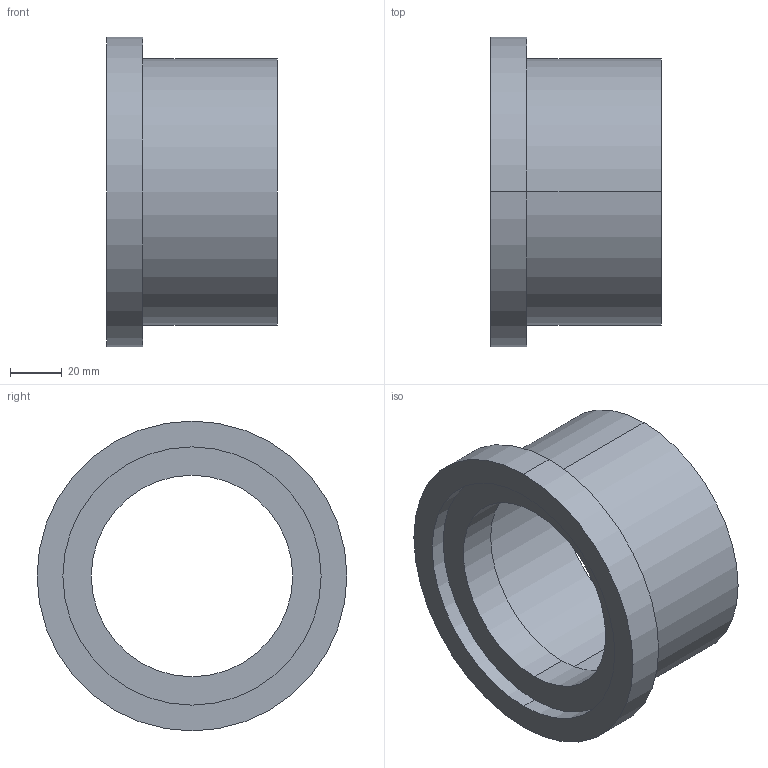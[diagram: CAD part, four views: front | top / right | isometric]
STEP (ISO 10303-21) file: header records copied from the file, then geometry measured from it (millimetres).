
FILE_DESCRIPTION (( 'STEP AP203' ), '1' );
FILE_NAME ('3 (3鋼管用).STEP', '2014-07-15T01:01:47', ( 'jameswang' ), ( '' ), 'SwSTEP 2.0', 'SolidWorks 2013', '' );
FILE_SCHEMA (( 'CONFIG_CONTROL_DESIGN' ));
Length unit declared in the file: millimetre
Products named in the file (1): 3 (3鋼管用)
Bounding box: 66 x 120 x 120 mm (x, y, z)
Surface area: 105758.8 mm2 (no closed solid volume)
Topology: 0 solids, 3 shells, 19 faces, 48 edges, 24 vertices
Faces by surface type: cylinder 10, plane 5, cone 2, torus 2
Entity records: 1109 total; most frequent: DIRECTION 198, CARTESIAN_POINT 153, ORIENTED_EDGE 145, AXIS2_PLACEMENT_3D 86, EDGE_CURVE 71, EDGE_LOOP 47, CIRCLE 46, VERTEX_POINT 46
